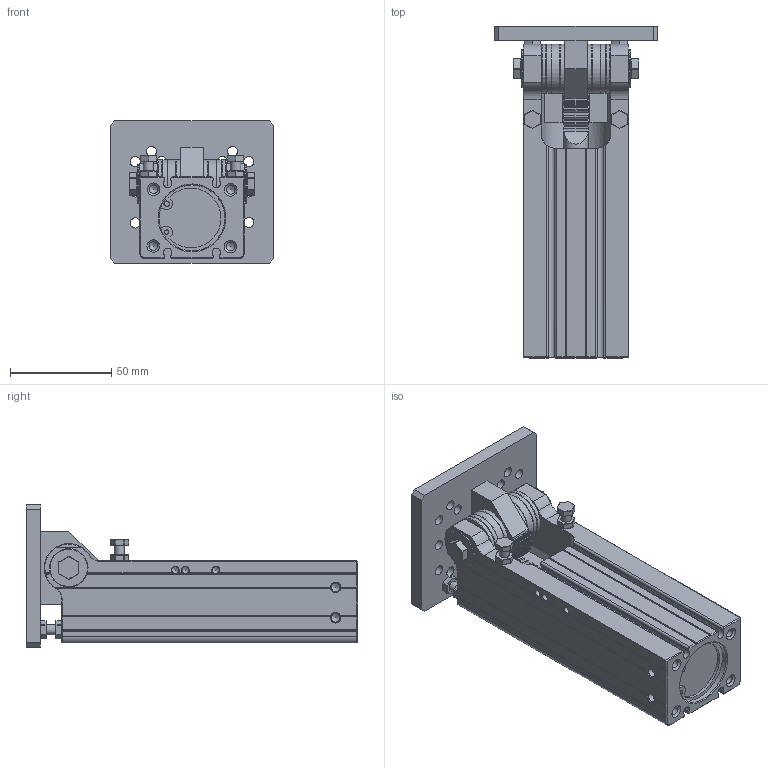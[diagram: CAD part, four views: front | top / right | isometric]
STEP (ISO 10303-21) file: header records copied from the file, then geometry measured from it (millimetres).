
FILE_DESCRIPTION(/* description */ (''),/* implementation_level */ '2;1');
FILE_NAME(/* name */ 'DHR3C-32M30ZG-ZB.stp',/* time_stamp */ '2023-05-31T09:47:32+08:00',/* author */ (''),/* organization */ (''),/* preprocessor_version */ 'ST-DEVELOPER v14',/* originating_system */ 'SIEMENS PLM Software NX 8.0',/* authorisation */ '');
FILE_SCHEMA (('AP203_CONFIGURATION_CONTROLLED_3D_DESIGN_OF_MECHANICAL_PARTS_AND_ASSEMBLIES_MIM_LF { 1 0 10303 403 2 1 2}'));
Products named in the file (1): Admi0FF02E9Cg4rm
Bounding box: 80 x 163.5 x 70 mm (x, y, z)
Volume: 315830.3 mm3; surface area: 71829.2 mm2
Topology: 6 solids, 31 shells, 1977 faces, 5438 edges, 3520 vertices
Faces by surface type: plane 1608, cylinder 224, cone 105, torus 27, extrusion 11, bspline 2
Full cylindrical faces by diameter (mm): 2 x1, 2.5 x4, 2.583 x1, 3 x2, 3.3 x3, 4 x3, 4.2 x6, 4.5 x2, 5 x33, 6.5 x2, 8 x2, 8.5 x2, 10 x9, 12 x3, 14 x2, 19 x2, 24 x6, 24.002 x2, 32.5 x1, 34 x1
Entity records: 63908 total; most frequent: CARTESIAN_POINT 18727, ORIENTED_EDGE 10340, DIRECTION 7471, EDGE_CURVE 5170, VERTEX_POINT 3456, AXIS2_PLACEMENT_3D 2542, VECTOR 2387, LINE 2376
